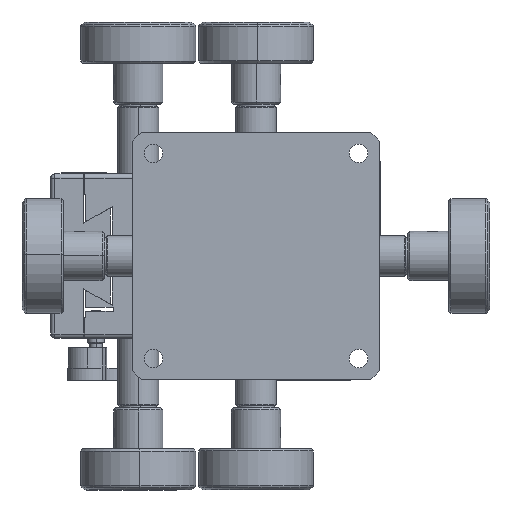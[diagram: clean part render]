
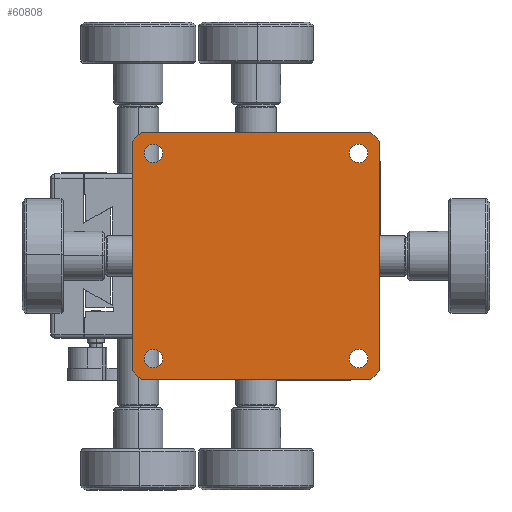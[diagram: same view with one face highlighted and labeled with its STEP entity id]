
A CAD part, front view. The second image highlights one B-rep face of the part: STEP entity #60808.
In plain terms, the highlighted planar face has unit normal (0, -1, 0).
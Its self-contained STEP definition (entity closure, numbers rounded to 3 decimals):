
#2152 = VERTEX_POINT ( 'NONE', #26331 ) ;
#2999 = EDGE_CURVE ( 'NONE', #26217, #14415, #113703, .T. ) ;
#3174 = LINE ( 'NONE', #56157, #112131 ) ;
#4175 = VERTEX_POINT ( 'NONE', #36745 ) ;
#5425 = EDGE_LOOP ( 'NONE', ( #38944, #8948 ) ) ;
#5499 = CIRCLE ( 'NONE', #34438, 2.25 ) ;
#5833 = DIRECTION ( 'NONE',  ( 1., 0., 0. ) ) ;
#6341 = ORIENTED_EDGE ( 'NONE', *, *, #8272, .T. ) ;
#6426 = EDGE_LOOP ( 'NONE', ( #17802, #80812 ) ) ;
#8272 = EDGE_CURVE ( 'NONE', #26217, #23222, #50043, .T. ) ;
#8686 = AXIS2_PLACEMENT_3D ( 'NONE', #135894, #135727, #135445 ) ;
#8892 = EDGE_CURVE ( 'NONE', #14165, #131807, #62990, .T. ) ;
#8928 = DIRECTION ( 'NONE',  ( -0.707, 0., -0.707 ) ) ;
#8948 = ORIENTED_EDGE ( 'NONE', *, *, #29501, .T. ) ;
#8958 = EDGE_CURVE ( 'NONE', #39251, #101735, #84429, .T. ) ;
#9253 = CARTESIAN_POINT ( 'NONE',  ( -29., 0., 29. ) ) ;
#10983 = CARTESIAN_POINT ( 'NONE',  ( 25., 0., -25. ) ) ;
#13097 = DIRECTION ( 'NONE',  ( 0., 0., 1. ) ) ;
#14165 = VERTEX_POINT ( 'NONE', #81725 ) ;
#14415 = VERTEX_POINT ( 'NONE', #15219 ) ;
#14988 = CARTESIAN_POINT ( 'NONE',  ( -28., 0., 30. ) ) ;
#15219 = CARTESIAN_POINT ( 'NONE',  ( 28., 0., 30. ) ) ;
#15964 = ORIENTED_EDGE ( 'NONE', *, *, #103537, .T. ) ;
#16044 = CARTESIAN_POINT ( 'NONE',  ( 22.75, 0., -25. ) ) ;
#17802 = ORIENTED_EDGE ( 'NONE', *, *, #8892, .T. ) ;
#17905 = LINE ( 'NONE', #136584, #126801 ) ;
#20805 = DIRECTION ( 'NONE',  ( 0., -1., 0. ) ) ;
#20846 = CARTESIAN_POINT ( 'NONE',  ( -22.75, 0., -25. ) ) ;
#21125 = FACE_BOUND ( 'NONE', #5425, .T. ) ;
#21571 = DIRECTION ( 'NONE',  ( 1., 0., 0. ) ) ;
#22002 = EDGE_LOOP ( 'NONE', ( #37637, #26034 ) ) ;
#22877 = ORIENTED_EDGE ( 'NONE', *, *, #57136, .F. ) ;
#23222 = VERTEX_POINT ( 'NONE', #76572 ) ;
#23351 = LINE ( 'NONE', #42915, #51364 ) ;
#24026 = CARTESIAN_POINT ( 'NONE',  ( -30., 0., -28. ) ) ;
#24448 = EDGE_CURVE ( 'NONE', #119353, #14415, #17905, .T. ) ;
#26034 = ORIENTED_EDGE ( 'NONE', *, *, #106627, .T. ) ;
#26051 = ORIENTED_EDGE ( 'NONE', *, *, #65539, .F. ) ;
#26217 = VERTEX_POINT ( 'NONE', #14988 ) ;
#26331 = CARTESIAN_POINT ( 'NONE',  ( -28., 0., -30. ) ) ;
#26734 = VERTEX_POINT ( 'NONE', #29562 ) ;
#27556 = EDGE_CURVE ( 'NONE', #101735, #39251, #58284, .T. ) ;
#28431 = DIRECTION ( 'NONE',  ( 0., 1., 0. ) ) ;
#29501 = EDGE_CURVE ( 'NONE', #59562, #103113, #84476, .T. ) ;
#29539 = VECTOR ( 'NONE', #127956, 1000. ) ;
#29562 = CARTESIAN_POINT ( 'NONE',  ( -22.75, 0., 25. ) ) ;
#29663 = CIRCLE ( 'NONE', #93904, 2.25 ) ;
#31664 = VECTOR ( 'NONE', #82441, 1000. ) ;
#34438 = AXIS2_PLACEMENT_3D ( 'NONE', #91629, #28431, #102196 ) ;
#36745 = CARTESIAN_POINT ( 'NONE',  ( 28., 0., -30. ) ) ;
#37637 = ORIENTED_EDGE ( 'NONE', *, *, #77680, .T. ) ;
#38944 = ORIENTED_EDGE ( 'NONE', *, *, #80239, .T. ) ;
#39251 = VERTEX_POINT ( 'NONE', #118516 ) ;
#42786 = VECTOR ( 'NONE', #13097, 1000. ) ;
#42915 = CARTESIAN_POINT ( 'NONE',  ( 30., 0., 30. ) ) ;
#43150 = CARTESIAN_POINT ( 'NONE',  ( -25., 0., 25. ) ) ;
#44047 = AXIS2_PLACEMENT_3D ( 'NONE', #129604, #129434, #129413 ) ;
#44972 = CARTESIAN_POINT ( 'NONE',  ( -25., 0., -25. ) ) ;
#46162 = EDGE_LOOP ( 'NONE', ( #81924, #130356 ) ) ;
#46425 = ORIENTED_EDGE ( 'NONE', *, *, #2999, .F. ) ;
#48734 = CARTESIAN_POINT ( 'NONE',  ( 30., 0., -28. ) ) ;
#49005 = VERTEX_POINT ( 'NONE', #99871 ) ;
#49146 = FACE_BOUND ( 'NONE', #22002, .T. ) ;
#50043 = LINE ( 'NONE', #9253, #106170 ) ;
#51364 = VECTOR ( 'NONE', #95525, 1000. ) ;
#52152 = CARTESIAN_POINT ( 'NONE',  ( -30., 0., 30. ) ) ;
#53806 = DIRECTION ( 'NONE',  ( 1., 0., 0. ) ) ;
#54549 = VERTEX_POINT ( 'NONE', #48734 ) ;
#55658 = DIRECTION ( 'NONE',  ( 1., 0., 0. ) ) ;
#56157 = CARTESIAN_POINT ( 'NONE',  ( 29., 0., -29. ) ) ;
#56275 = DIRECTION ( 'NONE',  ( 0., 1., 0. ) ) ;
#57136 = EDGE_CURVE ( 'NONE', #119353, #54549, #23351, .T. ) ;
#57870 = EDGE_LOOP ( 'NONE', ( #46425, #6341, #26051, #121640, #74126, #15964, #22877, #106714 ) ) ;
#58284 = CIRCLE ( 'NONE', #94389, 2.25 ) ;
#59562 = VERTEX_POINT ( 'NONE', #16044 ) ;
#60808 = ADVANCED_FACE ( 'NONE', ( #77267, #49146, #105262, #21125, #130037 ), #62769, .T. ) ;
#61315 = VECTOR ( 'NONE', #66764, 1000. ) ;
#62769 = PLANE ( 'NONE',  #70678 ) ;
#62990 = CIRCLE ( 'NONE', #8686, 2.25 ) ;
#65539 = EDGE_CURVE ( 'NONE', #128348, #23222, #127004, .T. ) ;
#66764 = DIRECTION ( 'NONE',  ( -1., 0., 0. ) ) ;
#69012 = DIRECTION ( 'NONE',  ( 0., 1., 0. ) ) ;
#70678 = AXIS2_PLACEMENT_3D ( 'NONE', #52152, #20805, #94575 ) ;
#72827 = CIRCLE ( 'NONE', #90588, 2.25 ) ;
#74126 = ORIENTED_EDGE ( 'NONE', *, *, #127183, .F. ) ;
#75841 = CARTESIAN_POINT ( 'NONE',  ( 22.75, 0., 25. ) ) ;
#76572 = CARTESIAN_POINT ( 'NONE',  ( -30., 0., 28. ) ) ;
#77267 = FACE_BOUND ( 'NONE', #6426, .T. ) ;
#77358 = DIRECTION ( 'NONE',  ( 0.707, 0., 0.707 ) ) ;
#77680 = EDGE_CURVE ( 'NONE', #26734, #49005, #29663, .T. ) ;
#77915 = CIRCLE ( 'NONE', #82584, 2.25 ) ;
#80239 = EDGE_CURVE ( 'NONE', #103113, #59562, #77915, .T. ) ;
#80812 = ORIENTED_EDGE ( 'NONE', *, *, #127324, .T. ) ;
#81725 = CARTESIAN_POINT ( 'NONE',  ( 27.25, 0., 25. ) ) ;
#81924 = ORIENTED_EDGE ( 'NONE', *, *, #27556, .T. ) ;
#82441 = DIRECTION ( 'NONE',  ( 0.707, 0., -0.707 ) ) ;
#82584 = AXIS2_PLACEMENT_3D ( 'NONE', #119468, #56275, #130019 ) ;
#84429 = CIRCLE ( 'NONE', #44047, 2.25 ) ;
#84476 = CIRCLE ( 'NONE', #102479, 2.25 ) ;
#84769 = DIRECTION ( 'NONE',  ( 0., 1., 0. ) ) ;
#85731 = CARTESIAN_POINT ( 'NONE',  ( 30., 0., 28. ) ) ;
#87754 = LINE ( 'NONE', #103209, #31664 ) ;
#89387 = LINE ( 'NONE', #108724, #61315 ) ;
#90588 = AXIS2_PLACEMENT_3D ( 'NONE', #132189, #69012, #5833 ) ;
#91629 = CARTESIAN_POINT ( 'NONE',  ( -25., 0., 25. ) ) ;
#93904 = AXIS2_PLACEMENT_3D ( 'NONE', #43150, #117012, #53806 ) ;
#94389 = AXIS2_PLACEMENT_3D ( 'NONE', #44972, #118834, #55658 ) ;
#94575 = DIRECTION ( 'NONE',  ( -1., 0., 0. ) ) ;
#94635 = DIRECTION ( 'NONE',  ( -0.707, 0., 0.707 ) ) ;
#95525 = DIRECTION ( 'NONE',  ( 0., 0., -1. ) ) ;
#99871 = CARTESIAN_POINT ( 'NONE',  ( -27.25, 0., 25. ) ) ;
#101735 = VERTEX_POINT ( 'NONE', #20846 ) ;
#102196 = DIRECTION ( 'NONE',  ( 1., 0., 0. ) ) ;
#102479 = AXIS2_PLACEMENT_3D ( 'NONE', #10983, #84769, #21571 ) ;
#103113 = VERTEX_POINT ( 'NONE', #118619 ) ;
#103209 = CARTESIAN_POINT ( 'NONE',  ( -59., 0., 1. ) ) ;
#103537 = EDGE_CURVE ( 'NONE', #4175, #54549, #3174, .T. ) ;
#105262 = FACE_BOUND ( 'NONE', #46162, .T. ) ;
#106170 = VECTOR ( 'NONE', #8928, 1000. ) ;
#106627 = EDGE_CURVE ( 'NONE', #49005, #26734, #5499, .T. ) ;
#106714 = ORIENTED_EDGE ( 'NONE', *, *, #24448, .T. ) ;
#108724 = CARTESIAN_POINT ( 'NONE',  ( 30., 0., -30. ) ) ;
#108975 = CARTESIAN_POINT ( 'NONE',  ( -30., 0., 30. ) ) ;
#112131 = VECTOR ( 'NONE', #77358, 1000. ) ;
#113703 = LINE ( 'NONE', #127754, #29539 ) ;
#117012 = DIRECTION ( 'NONE',  ( 0., 1., 0. ) ) ;
#118516 = CARTESIAN_POINT ( 'NONE',  ( -27.25, 0., -25. ) ) ;
#118619 = CARTESIAN_POINT ( 'NONE',  ( 27.25, 0., -25. ) ) ;
#118834 = DIRECTION ( 'NONE',  ( 0., 1., 0. ) ) ;
#119353 = VERTEX_POINT ( 'NONE', #85731 ) ;
#119468 = CARTESIAN_POINT ( 'NONE',  ( 25., 0., -25. ) ) ;
#121640 = ORIENTED_EDGE ( 'NONE', *, *, #133741, .T. ) ;
#126801 = VECTOR ( 'NONE', #94635, 1000. ) ;
#127004 = LINE ( 'NONE', #108975, #42786 ) ;
#127183 = EDGE_CURVE ( 'NONE', #4175, #2152, #89387, .T. ) ;
#127324 = EDGE_CURVE ( 'NONE', #131807, #14165, #72827, .T. ) ;
#127754 = CARTESIAN_POINT ( 'NONE',  ( 30., 0., 30. ) ) ;
#127956 = DIRECTION ( 'NONE',  ( 1., 0., 0. ) ) ;
#128348 = VERTEX_POINT ( 'NONE', #24026 ) ;
#129413 = DIRECTION ( 'NONE',  ( 1., 0., 0. ) ) ;
#129434 = DIRECTION ( 'NONE',  ( 0., 1., 0. ) ) ;
#129604 = CARTESIAN_POINT ( 'NONE',  ( -25., 0., -25. ) ) ;
#130019 = DIRECTION ( 'NONE',  ( 1., 0., 0. ) ) ;
#130037 = FACE_OUTER_BOUND ( 'NONE', #57870, .T. ) ;
#130356 = ORIENTED_EDGE ( 'NONE', *, *, #8958, .T. ) ;
#131807 = VERTEX_POINT ( 'NONE', #75841 ) ;
#132189 = CARTESIAN_POINT ( 'NONE',  ( 25., 0., 25. ) ) ;
#133741 = EDGE_CURVE ( 'NONE', #128348, #2152, #87754, .T. ) ;
#135445 = DIRECTION ( 'NONE',  ( 1., 0., 0. ) ) ;
#135727 = DIRECTION ( 'NONE',  ( 0., 1., 0. ) ) ;
#135894 = CARTESIAN_POINT ( 'NONE',  ( 25., 0., 25. ) ) ;
#136584 = CARTESIAN_POINT ( 'NONE',  ( -1., 0., 59. ) ) ;
